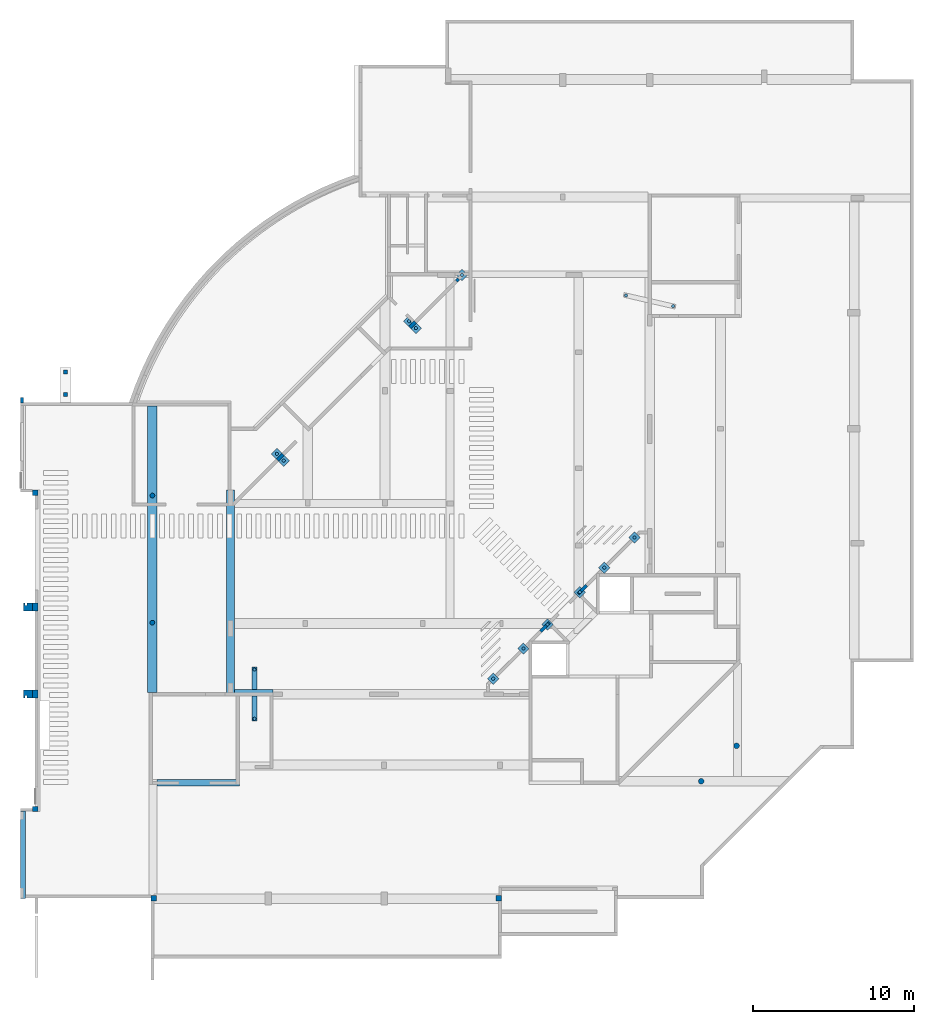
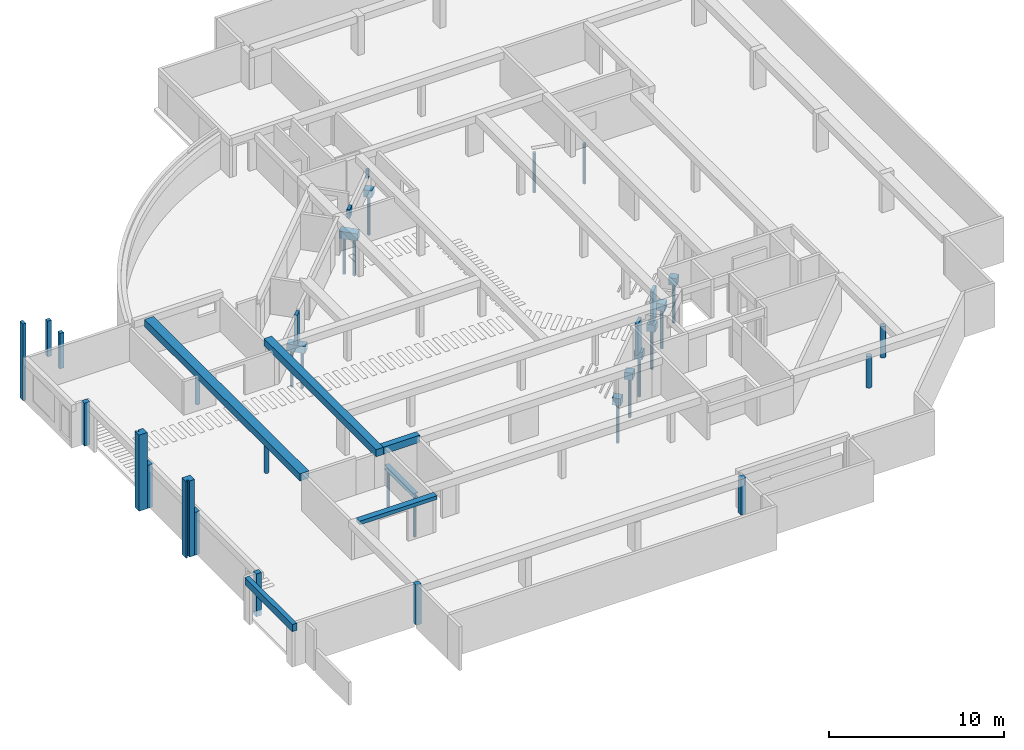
# One storey, part 1 of 12: 20 columns, 15 piles, 9 footings, 6 beams.
"""IFC4X3_ADD2 building model written with IfcOpenShell, lengths in millimetres."""

import ifcopenshell
import ifcopenshell.guid

model = None  # the IFC model being written
_history = None  # IfcOwnerHistory: only IFC2X3 demands one
_inside = {}  # id of a spatial element -> (the spatial element, [elements in it])
_under = {}  # id of a project, library or spatial element -> (it, [spatial elements below it])
_declared = {}  # id of a project -> (the project, [libraries it declares])
_typed = {}  # id of a type object -> (the type object, [elements of that type])
_made_of = {}  # id of a material, layer set ... -> (it, [elements and type objects made of it])


def new_model(schema):
    """Start an empty IFC model of exactly this schema.

    Asked for "IFC4X3", IfcOpenShell would pick the latest addendum, in which some entities
    have other attributes; the version numbers below select the first issue.
    IFC2X3 requires an IfcOwnerHistory on every rooted entity: one is made here for all.
    """
    global model, _history
    if schema == "IFC4X3":
        model = ifcopenshell.file(schema_version=(4, 3, 0, 0))
    else:
        model = ifcopenshell.file(schema=schema)
    _inside.clear()
    _under.clear()
    _declared.clear()
    _typed.clear()
    _made_of.clear()
    _history = None
    if model.schema == "IFC2X3":
        org = make("IfcOrganization", Name="unknown")
        user = make(
            "IfcPersonAndOrganization",
            ThePerson=make("IfcPerson", FamilyName="unknown"),
            TheOrganization=org,
        )
        app = make(
            "IfcApplication",
            ApplicationDeveloper=org,
            Version="unknown",
            ApplicationFullName="unknown",
            ApplicationIdentifier="unknown",
        )
        _history = make(
            "IfcOwnerHistory",
            OwningUser=user,
            OwningApplication=app,
            ChangeAction="ADDED",
            CreationDate=0,
        )
    return model


def make(cls, **values):
    """One entity of the class cls with the attributes given. An attribute that is None is left unset."""
    return model.create_entity(
        cls, **{name: value for name, value in values.items() if value is not None}
    )


def rooted(cls, **values):
    """An entity with a GlobalId (a new one), such as an element, a storey or a relation."""
    return make(cls, GlobalId=ifcopenshell.guid.new(), OwnerHistory=_history, **values)


def si_unit(unit_type, name, prefix=None):
    """IfcSIUnit, for example si_unit("LENGTHUNIT", "METRE", prefix="MILLI")."""
    return make("IfcSIUnit", UnitType=unit_type, Prefix=prefix, Name=name)


def assignment(units):
    """IfcUnitAssignment: the units of a project."""
    return None if units is None else make("IfcUnitAssignment", Units=units)


def point(xyz):
    """IfcCartesianPoint."""
    return None if xyz is None else make("IfcCartesianPoint", Coordinates=xyz)


def direction(xyz):
    """IfcDirection."""
    return None if xyz is None else make("IfcDirection", DirectionRatios=xyz)


def frame(location, z_axis=None, x_axis=None):
    """IfcAxis2Placement3D, a coordinate frame: its origin and axes. An axis left out is left unset."""
    return make(
        "IfcAxis2Placement3D",
        Location=point(location),
        Axis=direction(z_axis),
        RefDirection=direction(x_axis),
    )


def frame_2d(location, x_axis=None):
    """IfcAxis2Placement2D, a coordinate frame in the plane: its origin and x axis."""
    return make(
        "IfcAxis2Placement2D", Location=point(location), RefDirection=direction(x_axis)
    )


def origin_with_axes():
    """The frame at (0, 0, 0) with the z axis (0, 0, 1) and the x axis (1, 0, 0) written out."""
    return frame((0.0, 0.0, 0.0), z_axis=(0.0, 0.0, 1.0), x_axis=(1.0, 0.0, 0.0))


def origin_2d_with_axis():
    """The frame at (0, 0) in the plane with the x axis (1, 0) written out."""
    return frame_2d((0.0, 0.0), x_axis=(1.0, 0.0))


def place(relative_to, where):
    """IfcLocalPlacement: puts the frame where relative to a parent placement (None: the world)."""
    return make(
        "IfcLocalPlacement", PlacementRelTo=relative_to, RelativePlacement=where
    )


def context(
    kind, dimensions, precision=None, world=None, true_north=None, identifier=None
):
    """IfcGeometricRepresentationContext, for example the 3D "Model" context."""
    return make(
        "IfcGeometricRepresentationContext",
        ContextIdentifier=identifier,
        ContextType=kind,
        CoordinateSpaceDimension=dimensions,
        Precision=precision,
        WorldCoordinateSystem=world,
        TrueNorth=true_north,
    )


def subcontext(parent, identifier, kind, view, scale=None):
    """IfcGeometricRepresentationSubContext, for example "Body" below "Model"."""
    return make(
        "IfcGeometricRepresentationSubContext",
        ContextIdentifier=identifier,
        ContextType=kind,
        ParentContext=parent,
        TargetScale=scale,
        TargetView=view,
    )


def project(units=None, contexts=None):
    """IfcProject with its units and contexts."""
    return rooted(
        "IfcProject",
        Name="project",
        RepresentationContexts=contexts,
        UnitsInContext=assignment(units),
    )


def spatial(cls, under=None, at=None, **own):
    """A site, building, storey or space (cls), placed at a placement, below another one or the project."""
    s = rooted(cls, ObjectPlacement=at, **own)
    if under is not None:
        _under.setdefault(under.id(), (under, []))[1].append(s)
    return s


def polyline(points):
    """IfcPolyline through the points."""
    return make("IfcPolyline", Points=[point(p) for p in points])


def profile(cls, at=None, kind="AREA", **sizes):
    """A parametric profile (cls). Its sizes go by their IFC names, for example OverallWidth=200.0."""
    return make(cls, ProfileType=kind, Position=at, **sizes)


def rectangle(**sizes):
    """IfcRectangleProfileDef."""
    return profile("IfcRectangleProfileDef", **sizes)


def circle(**sizes):
    """IfcCircleProfileDef."""
    return profile("IfcCircleProfileDef", **sizes)


def outline(outer, holes=None, kind="AREA"):
    """IfcArbitraryClosedProfileDef: a profile drawn as a closed curve; with holes, ...WithVoids."""
    if holes is None:
        return make("IfcArbitraryClosedProfileDef", ProfileType=kind, OuterCurve=outer)
    return make(
        "IfcArbitraryProfileDefWithVoids",
        ProfileType=kind,
        OuterCurve=outer,
        InnerCurves=holes,
    )


def extrude(swept, where, along, depth):
    """IfcExtrudedAreaSolid: the profile swept, set in the frame where, extruded along a direction by depth."""
    return make(
        "IfcExtrudedAreaSolid",
        SweptArea=swept,
        Position=where,
        ExtrudedDirection=direction(along),
        Depth=depth,
    )


def shape(context_of_items, identifier, shape_type, items):
    """IfcShapeRepresentation: the items that make up one representation, for example the "Body"."""
    return make(
        "IfcShapeRepresentation",
        ContextOfItems=context_of_items,
        RepresentationIdentifier=identifier,
        RepresentationType=shape_type,
        Items=items,
    )


def source(mapping_origin, context_of_items, identifier, shape_type, items):
    """IfcRepresentationMap: a shape defined once, which mapped items show again and again."""
    return make(
        "IfcRepresentationMap",
        MappingOrigin=mapping_origin,
        MappedRepresentation=shape(context_of_items, identifier, shape_type, items),
    )


def transform(
    local_origin,
    x_axis=None,
    y_axis=None,
    z_axis=None,
    scale=None,
    scale2=None,
    scale3=None,
    uniform=True,
):
    """IfcCartesianTransformationOperator3D, or its non-uniform kind. x_axis, y_axis, z_axis: its Axis1, 2, 3."""
    if uniform:
        return make(
            "IfcCartesianTransformationOperator3D",
            Axis1=direction(x_axis),
            Axis2=direction(y_axis),
            LocalOrigin=point(local_origin),
            Scale=scale,
            Axis3=direction(z_axis),
        )
    return make(
        "IfcCartesianTransformationOperator3DnonUniform",
        Axis1=direction(x_axis),
        Axis2=direction(y_axis),
        LocalOrigin=point(local_origin),
        Scale=scale,
        Axis3=direction(z_axis),
        Scale2=scale2,
        Scale3=scale3,
    )


def mapped(mapping_source, mapping_target):
    """IfcMappedItem: shows the shape of a source again, moved by a transform."""
    return make(
        "IfcMappedItem", MappingSource=mapping_source, MappingTarget=mapping_target
    )


def material(Name=None, Category=None):
    """IfcMaterial."""
    return make("IfcMaterial", Name=Name, Category=Category)


def made_of(thing, what):
    """Note that an element or type object is made of a material, layer set ...; save() writes the relation."""
    if what is not None:
        _made_of.setdefault(what.id(), (what, []))[1].append(thing)
    return thing


def type_object(cls, material=None, **own):
    """A type object (cls), such as IfcWallType, which elements share."""
    return made_of(rooted(cls, **own), material)


def type_shapes(of_type, sources):
    """Give a type object the sources (RepresentationMaps) that its elements show as mapped items."""
    of_type.RepresentationMaps = sources


def element(
    cls,
    number,
    at=None,
    inside=None,
    cuts=None,
    type_object=None,
    material=None,
    context=None,
    identifier="Body",
    shape_type=None,
    held_by="IfcProductDefinitionShape",
    body=None,
    shapes=None,
    **own,
):
    """One element of the class cls, such as IfcWall. Its Tag is "e" and its number.

    at: its placement. inside: the storey or other place that contains it. cuts: it is an
    opening in that element (IfcRelVoidsElement). A single representation is given by context,
    identifier, shape_type and body (its items); several are given by shapes. held_by: the class
    of the entity that holds the representations. save() writes the other relations.
    """
    e = rooted(cls, Tag="e%d" % number, ObjectPlacement=at, **own)
    if body is not None:
        shapes = [shape(context, identifier, shape_type, body)]
    if shapes is not None:
        e.Representation = make(held_by, Representations=shapes)
    if inside is not None:
        _inside.setdefault(inside.id(), (inside, []))[1].append(e)
    if cuts is not None:
        rooted(
            "IfcRelVoidsElement", RelatingBuildingElement=cuts, RelatedOpeningElement=e
        )
    if type_object is not None:
        _typed.setdefault(type_object.id(), (type_object, []))[1].append(e)
    return made_of(e, material)


def aggregate(whole, parts):
    """IfcRelAggregates: a whole, such as a stair, and the parts it consists of."""
    return rooted("IfcRelAggregates", RelatingObject=whole, RelatedObjects=parts)


def save(model, path):
    """Write the relations noted so far, then the file.

    IfcRelAggregates (storeys below a building ...), IfcRelContainedInSpatialStructure (elements
    in a storey), IfcRelDefinesByType, IfcRelAssociatesMaterial and IfcRelDeclares: one each for
    every whole, place, type object, material and project.
    """
    for whole, parts in _under.values():
        aggregate(whole, parts)
    for where, things in _inside.values():
        rooted(
            "IfcRelContainedInSpatialStructure",
            RelatedElements=things,
            RelatingStructure=where,
        )
    for kind, things in _typed.values():
        rooted("IfcRelDefinesByType", RelatedObjects=things, RelatingType=kind)
    for what, things in _made_of.values():
        rooted("IfcRelAssociatesMaterial", RelatedObjects=things, RelatingMaterial=what)
    for by, libraries in _declared.values():
        rooted("IfcRelDeclares", RelatingContext=by, RelatedDefinitions=libraries)
    model.write(path)


model = new_model("IFC4X3_ADD2")

# Units and contexts
model_context = context("Model", 3, precision=1e-05, world=origin_with_axes(), true_north=direction((0.0, 1.0)))
body_context = subcontext(model_context, "Body", "Model", "MODEL_VIEW")
ifc_project = project(units=[si_unit("LENGTHUNIT", "METRE", prefix="MILLI"), si_unit("AREAUNIT", "SQUARE_METRE"), si_unit("VOLUMEUNIT", "CUBIC_METRE"), si_unit("PLANEANGLEUNIT", "RADIAN"), si_unit("TIMEUNIT", "SECOND"), si_unit("MASSUNIT", "GRAM")], contexts=[model_context])

# Site, building, storey
site_placement = place(None, origin_with_axes())
site = spatial("IfcSite", under=ifc_project, at=site_placement, Name="Site", CompositionType="ELEMENT")
building_placement = place(site_placement, origin_with_axes())
building = spatial("IfcBuilding", under=site, at=building_placement, Name="IFC Building Story")
storey_placement = place(building_placement, frame((0.0, 0.0, -5940.0), z_axis=(0.0, 0.0, 1.0), x_axis=(1.0, 0.0, 0.0)))
storey = spatial("IfcBuildingStorey", under=building, at=storey_placement, Name="K20", Elevation=-5940.0)

# Footings
ifc_material_1 = material(Name="Concrete, Cast-in-Place gray")
type_product_1 = type_object("IfcTypeProduct", Name="M_Pile Cap-1 Pile_500 x 500 x 500mm")
shared_shape_1 = source(origin_with_axes(), body_context, "Body", "SweptSolid", [
    extrude(rectangle(XDim=500.0, YDim=500.0, at=frame_2d((0.0, 0.0), x_axis=(0.0, 1.0))), frame((0.0, 0.0, -500.0), z_axis=(0.0, 0.0, 1.0), x_axis=(1.0, 0.0, 0.0)), (0.0, 0.0, 1.0), 500.0),
])
type_shapes(type_product_1, [shared_shape_1])
for number, where, z_axis, x_axis, name in (
    (1, (-16940.09696384, 18949.3000620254, 0.0), (0.0, 0.0, 1.0), (0.7071067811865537, 0.7071067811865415, 0.0), "M_Pile Cap-1 Pile:500 x 500 x 500mm"),
    (2, (-15420.6543263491, 20468.7426995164, 0.0), (0.0, 0.0, 1.0), (0.7071067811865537, 0.7071067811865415, 0.0), "M_Pile Cap-1 Pile:500 x 500 x 500mm"),
    (3, (-18944.7454076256, 16944.6516182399, 0.0), (0.0, 0.0, 1.0), (0.7071067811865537, 0.7071067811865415, 0.0), "M_Pile Cap-1 Pile:500 x 500 x 500mm"),
    (4, (-20447.5588851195, 15443.5937444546, 0.0), (0.0, 0.0, 1.0), (0.7071067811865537, 0.7071067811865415, 0.0), "M_Pile Cap-1 Pile:500 x 500 x 500mm"),
    (5, (-22320.5140534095, 13568.8829724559, 0.0), (0.0, 0.0, 1.0), (0.7071067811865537, 0.7071067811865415, 0.0), "M_Pile Cap-1 Pile:500 x 500 x 500mm"),
    (6, (-13546.8213562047, 22342.5756696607, 0.0), (0.0, 0.0, 1.0), (0.7071067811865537, 0.7071067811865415, 0.0), "M_Pile Cap-1 Pile:500 x 500 x 500mm"),
    (7, (-24261.0232022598, 38655.7160983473, 0.0), (0.0, 0.0, 1.0), (0.7071067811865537, 0.7071067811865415, 0.0), "M_Pile Cap-1 Pile:500 x 500 x 500mm"),
):
    element("IfcFooting", number, at=place(storey_placement, frame(where, z_axis=z_axis, x_axis=x_axis)), inside=storey, type_object=type_product_1, material=ifc_material_1, Name=name, ObjectType="M_Pile Cap-1 Pile:500 x 500 x 500mm", PredefinedType="PILE_CAP", context=body_context, shape_type="MappedRepresentation", body=[
        mapped(shared_shape_1, transform((0.0, 0.0, 0.0))),
    ])

# Piles
ifc_material_2 = material(Name="Concrete, C30/37")
shared_shape_2 = source(origin_with_axes(), body_context, "Body", "SweptSolid", [
    extrude(circle(Radius=100.0, at=frame_2d((0.0, 0.0), x_axis=(-0.7071067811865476, -0.7071067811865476))), frame((-16940.09696384, 18949.3000620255, -9190.0), z_axis=(0.0, 0.0, 1.0), x_axis=(1.0, 0.0, 0.0)), (0.0, 0.0, 1.0), 2750.0),
])
pile_1_placement = place(storey_placement, frame((0.0, 0.0, 5940.0), z_axis=(0.0, 0.0, 1.0), x_axis=(1.0, 0.0, 0.0)))
element("IfcPile", 8, at=pile_1_placement, inside=storey, material=ifc_material_2, Name="M_Pile-Concrete Pipe:200 mm Diameter", ObjectType="M_Pile-Concrete Pipe:200 mm Diameter", PredefinedType="USERDEFINED", context=body_context, shape_type="MappedRepresentation", body=[
    mapped(shared_shape_2, transform((0.0, 0.0, 0.0))),
])
shared_shape_3 = source(origin_with_axes(), body_context, "Body", "SweptSolid", [
    extrude(circle(Radius=100.000000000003, at=frame_2d((0.0, 0.0), x_axis=(-0.7071067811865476, -0.7071067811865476))), frame((-15420.6543263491, 20468.7426995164, -9190.0), z_axis=(0.0, 0.0, 1.0), x_axis=(1.0, 0.0, 0.0)), (0.0, 0.0, 1.0), 2750.0),
])
pile_2_placement = place(storey_placement, frame((0.0, 0.0, 5940.0), z_axis=(0.0, 0.0, 1.0), x_axis=(1.0, 0.0, 0.0)))
element("IfcPile", 9, at=pile_2_placement, inside=storey, material=ifc_material_2, Name="M_Pile-Concrete Pipe:200 mm Diameter", ObjectType="M_Pile-Concrete Pipe:200 mm Diameter", PredefinedType="USERDEFINED", context=body_context, shape_type="MappedRepresentation", body=[
    mapped(shared_shape_3, transform((0.0, 0.0, 0.0))),
])
shared_shape_4 = source(origin_with_axes(), body_context, "Body", "SweptSolid", [
    extrude(circle(Radius=100.0, at=frame_2d((0.0, 0.0), x_axis=(-0.7071067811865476, -0.7071067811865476))), frame((-18944.7454076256, 16944.6516182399, -9190.0), z_axis=(0.0, 0.0, 1.0), x_axis=(1.0, 0.0, 0.0)), (0.0, 0.0, 1.0), 2750.0),
])
pile_3_placement = place(storey_placement, frame((0.0, 0.0, 5940.0), z_axis=(0.0, 0.0, 1.0), x_axis=(1.0, 0.0, 0.0)))
element("IfcPile", 10, at=pile_3_placement, inside=storey, material=ifc_material_2, Name="M_Pile-Concrete Pipe:200 mm Diameter", ObjectType="M_Pile-Concrete Pipe:200 mm Diameter", PredefinedType="USERDEFINED", context=body_context, shape_type="MappedRepresentation", body=[
    mapped(shared_shape_4, transform((0.0, 0.0, 0.0))),
])
shared_shape_5 = source(origin_with_axes(), body_context, "Body", "SweptSolid", [
    extrude(circle(Radius=99.999999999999, at=frame_2d((0.0, 0.0), x_axis=(-0.7071067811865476, -0.7071067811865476))), frame((-20447.5588851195, 15443.5937444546, -9190.0), z_axis=(0.0, 0.0, 1.0), x_axis=(1.0, 0.0, 0.0)), (0.0, 0.0, 1.0), 2750.0),
])
pile_4_placement = place(storey_placement, frame((0.0, 0.0, 5940.0), z_axis=(0.0, 0.0, 1.0), x_axis=(1.0, 0.0, 0.0)))
element("IfcPile", 11, at=pile_4_placement, inside=storey, material=ifc_material_2, Name="M_Pile-Concrete Pipe:200 mm Diameter", ObjectType="M_Pile-Concrete Pipe:200 mm Diameter", PredefinedType="USERDEFINED", context=body_context, shape_type="MappedRepresentation", body=[
    mapped(shared_shape_5, transform((0.0, 0.0, 0.0))),
])
shared_shape_6 = source(origin_with_axes(), body_context, "Body", "SweptSolid", [
    extrude(circle(Radius=99.999999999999, at=frame_2d((0.0, 0.0), x_axis=(-0.7071067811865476, -0.7071067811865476))), frame((-22320.5140534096, 13568.8829724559, -9190.0), z_axis=(0.0, 0.0, 1.0), x_axis=(1.0, 0.0, 0.0)), (0.0, 0.0, 1.0), 2750.0),
])
pile_5_placement = place(storey_placement, frame((0.0, 0.0, 5940.0), z_axis=(0.0, 0.0, 1.0), x_axis=(1.0, 0.0, 0.0)))
element("IfcPile", 12, at=pile_5_placement, inside=storey, material=ifc_material_2, Name="M_Pile-Concrete Pipe:200 mm Diameter", ObjectType="M_Pile-Concrete Pipe:200 mm Diameter", PredefinedType="USERDEFINED", context=body_context, shape_type="MappedRepresentation", body=[
    mapped(shared_shape_6, transform((0.0, 0.0, 0.0))),
])
shared_shape_7 = source(origin_with_axes(), body_context, "Body", "SweptSolid", [
    extrude(circle(Radius=100.000000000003, at=frame_2d((0.0, 0.0), x_axis=(-0.7071067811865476, -0.7071067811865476))), frame((-13546.8213562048, 22342.5756696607, -9190.0), z_axis=(0.0, 0.0, 1.0), x_axis=(1.0, 0.0, 0.0)), (0.0, 0.0, 1.0), 2750.0),
])
pile_6_placement = place(storey_placement, frame((0.0, 0.0, 5940.0), z_axis=(0.0, 0.0, 1.0), x_axis=(1.0, 0.0, 0.0)))
element("IfcPile", 13, at=pile_6_placement, inside=storey, material=ifc_material_2, Name="M_Pile-Concrete Pipe:200 mm Diameter", ObjectType="M_Pile-Concrete Pipe:200 mm Diameter", PredefinedType="USERDEFINED", context=body_context, shape_type="MappedRepresentation", body=[
    mapped(shared_shape_7, transform((0.0, 0.0, 0.0))),
])
shared_shape_8 = source(origin_with_axes(), body_context, "Body", "SweptSolid", [
    extrude(circle(Radius=100.0, at=frame_2d((0.0, 0.0), x_axis=(-0.7071067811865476, -0.7071067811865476))), frame((-24261.0232022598, 38655.7160983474, -9190.0), z_axis=(0.0, 0.0, 1.0), x_axis=(1.0, 0.0, 0.0)), (0.0, 0.0, 1.0), 2750.0),
])
pile_7_placement = place(storey_placement, frame((0.0, 0.0, 5940.0), z_axis=(0.0, 0.0, 1.0), x_axis=(1.0, 0.0, 0.0)))
element("IfcPile", 14, at=pile_7_placement, inside=storey, material=ifc_material_2, Name="M_Pile-Concrete Pipe:200 mm Diameter", ObjectType="M_Pile-Concrete Pipe:200 mm Diameter", PredefinedType="USERDEFINED", context=body_context, shape_type="MappedRepresentation", body=[
    mapped(shared_shape_8, transform((0.0, 0.0, 0.0))),
])

# Footings
type_product_2 = type_object("IfcTypeProduct", Name="M_Pile Cap-2 Pile_500 x 1100 x 500")
shared_shape_9 = source(origin_with_axes(), body_context, "Body", "SweptSolid", [
    extrude(rectangle(XDim=1100.0, YDim=500.0, at=origin_2d_with_axis()), frame((0.0, 0.0, -500.0), z_axis=(0.0, 0.0, 1.0), x_axis=(1.0, 0.0, 0.0)), (0.0, 0.0, 1.0), 500.0),
])
type_shapes(type_product_2, [shared_shape_9])
for number, where, z_axis, x_axis, name in (
    (15, (-27339.2743410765, 35567.9262062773, 0.0), (0.0, 0.0, 1.0), (-0.7071067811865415, 0.7071067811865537, 0.0), "M_Pile Cap-2 Pile:500 x 1100 x 500"),
    (16, (-35550.6571620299, 27332.0113002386, 0.0), (0.0, 0.0, 1.0), (-0.7071067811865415, 0.7071067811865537, 0.0), "M_Pile Cap-2 Pile:500 x 1100 x 500"),
):
    element("IfcFooting", number, at=place(storey_placement, frame(where, z_axis=z_axis, x_axis=x_axis)), inside=storey, type_object=type_product_2, material=ifc_material_1, Name=name, ObjectType="M_Pile Cap-2 Pile:500 x 1100 x 500", PredefinedType="PILE_CAP", context=body_context, shape_type="MappedRepresentation", body=[
        mapped(shared_shape_9, transform((0.0, 0.0, 0.0))),
    ])

# Piles
shared_shape_10 = source(origin_with_axes(), body_context, "Body", "SweptSolid", [
    extrude(circle(Radius=100.0, at=frame_2d((0.0, 0.0), x_axis=(0.707106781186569, -0.707106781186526))), frame((-27551.4063754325, 35780.0582406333, -9040.0), z_axis=(0.0, 0.0, 1.0), x_axis=(1.0, 0.0, 0.0)), (0.0, 0.0, 1.0), 2600.0),
])
pile_8_placement = place(storey_placement, frame((0.0, 0.0, 5940.0), z_axis=(0.0, 0.0, 1.0), x_axis=(1.0, 0.0, 0.0)))
element("IfcPile", 17, at=pile_8_placement, inside=storey, material=ifc_material_2, Name="M_Pile-Concrete Pipe:200 mm Diameter", ObjectType="M_Pile-Concrete Pipe:200 mm Diameter", PredefinedType="USERDEFINED", context=body_context, shape_type="MappedRepresentation", body=[
    mapped(shared_shape_10, transform((0.0, 0.0, 0.0))),
])
shared_shape_11 = source(origin_with_axes(), body_context, "Body", "SweptSolid", [
    extrude(circle(Radius=100.0, at=frame_2d((0.0, 0.0), x_axis=(0.707106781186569, -0.707106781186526))), frame((-27127.1423067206, 35355.7941719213, -9040.0), z_axis=(0.0, 0.0, 1.0), x_axis=(1.0, 0.0, 0.0)), (0.0, 0.0, 1.0), 2600.0),
])
pile_9_placement = place(storey_placement, frame((0.0, 0.0, 5940.0), z_axis=(0.0, 0.0, 1.0), x_axis=(1.0, 0.0, 0.0)))
element("IfcPile", 18, at=pile_9_placement, inside=storey, material=ifc_material_2, Name="M_Pile-Concrete Pipe:200 mm Diameter", ObjectType="M_Pile-Concrete Pipe:200 mm Diameter", PredefinedType="USERDEFINED", context=body_context, shape_type="MappedRepresentation", body=[
    mapped(shared_shape_11, transform((0.0, 0.0, 0.0))),
])
shared_shape_12 = source(origin_with_axes(), body_context, "Body", "SweptSolid", [
    extrude(circle(Radius=100.0, at=frame_2d((0.0, 0.0), x_axis=(0.707106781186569, -0.707106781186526))), frame((-35762.7891963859, 27544.1433345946, -9040.0), z_axis=(0.0, 0.0, 1.0), x_axis=(1.0, 0.0, 0.0)), (0.0, 0.0, 1.0), 2600.0),
])
pile_10_placement = place(storey_placement, frame((0.0, 0.0, 5940.0), z_axis=(0.0, 0.0, 1.0), x_axis=(1.0, 0.0, 0.0)))
element("IfcPile", 19, at=pile_10_placement, inside=storey, material=ifc_material_2, Name="M_Pile-Concrete Pipe:200 mm Diameter", ObjectType="M_Pile-Concrete Pipe:200 mm Diameter", PredefinedType="USERDEFINED", context=body_context, shape_type="MappedRepresentation", body=[
    mapped(shared_shape_12, transform((0.0, 0.0, 0.0))),
])
shared_shape_13 = source(origin_with_axes(), body_context, "Body", "SweptSolid", [
    extrude(circle(Radius=100.0, at=frame_2d((0.0, 0.0), x_axis=(0.707106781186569, -0.707106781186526))), frame((-35338.5251276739, 27119.8792658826, -9040.0), z_axis=(0.0, 0.0, 1.0), x_axis=(1.0, 0.0, 0.0)), (0.0, 0.0, 1.0), 2600.0),
])
pile_11_placement = place(storey_placement, frame((0.0, 0.0, 5940.0), z_axis=(0.0, 0.0, 1.0), x_axis=(1.0, 0.0, 0.0)))
element("IfcPile", 20, at=pile_11_placement, inside=storey, material=ifc_material_2, Name="M_Pile-Concrete Pipe:200 mm Diameter", ObjectType="M_Pile-Concrete Pipe:200 mm Diameter", PredefinedType="USERDEFINED", context=body_context, shape_type="MappedRepresentation", body=[
    mapped(shared_shape_13, transform((0.0, 0.0, 0.0))),
])
shared_shape_14 = source(origin_with_axes(), body_context, "Body", "SweptSolid", [
    extrude(circle(Radius=100.0, at=frame_2d((0.0, 0.0), x_axis=(-1.0, 0.0))), frame((0.0, 0.0, -2650.0), z_axis=(0.0, 0.0, 1.0), x_axis=(1.0, 0.0, 0.0)), (0.0, 0.0, 1.0), 2800.0),
])
for number, where, z_axis, x_axis, name in (
    (21, (-37155.9311801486, 11081.3984259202, -450.0), (0.0, 0.0, 1.0), (1.0, 0.0, 0.0), "M_Pile-Concrete Pipe:200 mm Diameter"),
    (22, (-37155.9311801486, 14132.4765192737, -450.0), (0.0, 0.0, 1.0), (1.0, 0.0, 0.0), "M_Pile-Concrete Pipe:200 mm Diameter"),
    (23, (-11141.0733573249, 36722.0180304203, -450.0), (0.0, 0.0, 1.0), (0.225286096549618, 0.9742926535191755, 0.0), "M_Pile-Concrete Pipe:200 mm Diameter"),
    (24, (-14065.130233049, 37389.4927690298, -450.0), (0.0, 0.0, 1.0), (0.225286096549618, 0.9742926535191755, 0.0), "M_Pile-Concrete Pipe:200 mm Diameter"),
):
    element("IfcPile", number, at=place(storey_placement, frame(where, z_axis=z_axis, x_axis=x_axis)), inside=storey, material=ifc_material_1, Name=name, ObjectType="M_Pile-Concrete Pipe:200 mm Diameter", PredefinedType="USERDEFINED", context=body_context, shape_type="MappedRepresentation", body=[
        mapped(shared_shape_14, transform((0.0, 0.0, 0.0))),
    ])

# Columns
ifc_material_3 = material(Name="BB_Beton_Bestaand")
column_type_1 = type_object("IfcColumnType", Name="BB_XX_Kolom_ rechthoekig_ center-center_GTL_340 mm x 340 mm", PredefinedType="NOTDEFINED")
shared_shape_15 = source(origin_with_axes(), body_context, "Body", "SweptSolid", [
    extrude(rectangle(XDim=340.0, YDim=340.0, at=origin_2d_with_axis()), frame((-50775.0, 5475.0, -6340.0), z_axis=(0.0, 0.0, 1.0), x_axis=(1.0, 0.0, 0.0)), (0.0, 0.0, 1.0), 3000.0),
])
type_shapes(column_type_1, [shared_shape_15])
column_1_placement = place(storey_placement, frame((0.0, 0.0, 5940.0), z_axis=(0.0, 0.0, 1.0), x_axis=(1.0, 0.0, 0.0)))
element("IfcColumn", 25, at=column_1_placement, inside=storey, type_object=column_type_1, material=ifc_material_3, Name="BB_XX_Kolom, rechthoekig, center-center_GTL:340 mm x 340 mm", ObjectType="340 mm x 340 mm", PredefinedType="COLUMN", context=body_context, shape_type="MappedRepresentation", body=[
    mapped(shared_shape_15, transform((0.0, 0.0, 0.0))),
])
column_type_2 = type_object("IfcColumnType", Name="BB_XX_Kolom_ rechthoekig_ center-center_GTL_340 mm x 340 mm1", PredefinedType="NOTDEFINED")
shared_shape_16 = source(origin_with_axes(), body_context, "Body", "SweptSolid", [
    extrude(rectangle(XDim=340.0, YDim=340.000000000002, at=origin_2d_with_axis()), frame((-43425.0, -75.0, -6140.0), z_axis=(0.0, 0.0, 1.0), x_axis=(1.0, 0.0, 0.0)), (0.0, 0.0, 1.0), 2800.0),
])
type_shapes(column_type_2, [shared_shape_16])
column_2_placement = place(storey_placement, frame((0.0, 0.0, 5940.0), z_axis=(0.0, 0.0, 1.0), x_axis=(1.0, 0.0, 0.0)))
element("IfcColumn", 26, at=column_2_placement, inside=storey, type_object=column_type_2, material=ifc_material_3, Name="BB_XX_Kolom, rechthoekig, center-center_GTL:340 mm x 340 mm", ObjectType="340 mm x 340 mm", PredefinedType="COLUMN", context=body_context, shape_type="MappedRepresentation", body=[
    mapped(shared_shape_16, transform((0.0, 0.0, 0.0))),
])
ifc_material_4 = material(Name="<Unnamed>")
column_type_3 = type_object("IfcColumnType", Name="BB_XX_Kolom_ rond_GMO_300 x 2100 mm", PredefinedType="NOTDEFINED")
shared_shape_17 = source(origin_with_axes(), body_context, "Body", "SweptSolid", [
    extrude(circle(Radius=150.0, at=frame_2d((0.0, 0.0), x_axis=(-1.0, 0.0))), origin_with_axes(), (0.0, 0.0, 1.0), 2100.0),
])
type_shapes(column_type_3, [shared_shape_17])
for number, where, z_axis, x_axis in (
    (27, (-43500.0, 17049.8382973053, 0.0), (0.0, 0.0, 1.0), (1.0, 0.0, 0.0)),
    (28, (-43500.0, 24949.8382973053, 0.0), (0.0, 0.0, 1.0), (1.0, 0.0, 0.0)),
):
    element("IfcColumn", number, at=place(storey_placement, frame(where, z_axis=z_axis, x_axis=x_axis)), inside=storey, type_object=column_type_3, material=ifc_material_4, Name="BB_XX_Kolom, rond_GMO:300 x 2100 mm", ObjectType="300 x 2100 mm", PredefinedType="COLUMN", context=body_context, shape_type="MappedRepresentation", body=[
        mapped(shared_shape_17, transform((0.0, 0.0, 0.0))),
    ])
column_type_4 = type_object("IfcColumnType", Name="BB_XX_Kolom_ rechthoekig_ center-center_GTL_340 mm x 340 mm3", PredefinedType="NOTDEFINED")
shared_shape_18 = source(origin_with_axes(), body_context, "Body", "SweptSolid", [
    extrude(rectangle(XDim=340.0, YDim=340.000000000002, at=origin_2d_with_axis()), frame((0.0, 0.0, -5940.0), z_axis=(0.0, 0.0, 1.0), x_axis=(1.0, 0.0, 0.0)), (0.0, 0.0, 1.0), 2500.0),
])
type_shapes(column_type_4, [shared_shape_18])
column_3_placement = place(storey_placement, frame((-21975.0, -75.0, 5940.0), z_axis=(0.0, 0.0, 1.0), x_axis=(1.0, 0.0, 0.0)))
element("IfcColumn", 29, at=column_3_placement, inside=storey, type_object=column_type_4, material=ifc_material_3, Name="BB_XX_Kolom, rechthoekig, center-center_GTL:340 mm x 340 mm", ObjectType="340 mm x 340 mm", PredefinedType="COLUMN", context=body_context, shape_type="MappedRepresentation", body=[
    mapped(shared_shape_18, transform((0.0, 0.0, 0.0))),
])
column_type_5 = type_object("IfcColumnType", Name="BB_XX_Kolom_ rond_GMO_350 x 2200 mm", PredefinedType="NOTDEFINED")
shared_shape_19 = source(origin_with_axes(), body_context, "Body", "SweptSolid", [
    extrude(circle(Radius=175.0, at=frame_2d((0.0, 0.0), x_axis=(-1.0, 0.0))), origin_with_axes(), (0.0, 0.0, 1.0), 2200.0),
])
type_shapes(column_type_5, [shared_shape_19])
for number, where, z_axis, x_axis in (
    (30, (-9400.0, 7200.0, 0.0), (0.0, 0.0, 1.0), (1.0, 0.0, 0.0)),
    (31, (-7200.0, 9400.0, 0.0), (0.0, 0.0, 1.0), (1.0, 0.0, 0.0)),
):
    element("IfcColumn", number, at=place(storey_placement, frame(where, z_axis=z_axis, x_axis=x_axis)), inside=storey, type_object=column_type_5, material=ifc_material_4, Name="BB_XX_Kolom, rond_GMO:350 x 2200 mm", ObjectType="350 x 2200 mm", PredefinedType="COLUMN", context=body_context, shape_type="MappedRepresentation", body=[
        mapped(shared_shape_19, transform((0.0, 0.0, 0.0))),
    ])
column_type_6 = type_object("IfcColumnType", Name="BB_XX_Kolom_ rechthoekig_ center-center_GTL_490 mm x 340 mm", PredefinedType="NOTDEFINED")
shared_shape_20 = source(origin_with_axes(), body_context, "Body", "SweptSolid", [
    extrude(rectangle(XDim=490.0, YDim=340.0, at=frame_2d((0.0, 0.0), x_axis=(0.0, 1.0))), frame((-50775.00000000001, 12630.0, -6340.0), z_axis=(0.0, 0.0, 1.0), x_axis=(1.0, 0.0, 0.0)), (0.0, 0.0, 1.0), 3000.0),
])
type_shapes(column_type_6, [shared_shape_20])
column_4_placement = place(storey_placement, frame((0.0, 0.0, 5940.0), z_axis=(0.0, 0.0, 1.0), x_axis=(1.0, 0.0, 0.0)))
element("IfcColumn", 32, at=column_4_placement, inside=storey, type_object=column_type_6, material=ifc_material_3, Name="BB_XX_Kolom, rechthoekig, center-center_GTL:490 mm x 340 mm", ObjectType="490 mm x 340 mm", PredefinedType="COLUMN", context=body_context, shape_type="MappedRepresentation", body=[
    mapped(shared_shape_20, transform((0.0, 0.0, 0.0))),
])
column_type_7 = type_object("IfcColumnType", Name="BB_XX_Kolom_ rechthoekig_ center-center_GTL_490 mm x 340 mm1", PredefinedType="NOTDEFINED")
shared_shape_21 = source(origin_with_axes(), body_context, "Body", "SweptSolid", [
    extrude(rectangle(XDim=489.9999999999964, YDim=340.0, at=frame_2d((0.0, 0.0), x_axis=(0.0, 1.0))), frame((-50775.00000000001, 18030.0, -6340.0), z_axis=(0.0, 0.0, 1.0), x_axis=(1.0, 0.0, 0.0)), (0.0, 0.0, 1.0), 3000.0),
])
type_shapes(column_type_7, [shared_shape_21])
column_5_placement = place(storey_placement, frame((0.0, 0.0, 5940.0), z_axis=(0.0, 0.0, 1.0), x_axis=(1.0, 0.0, 0.0)))
element("IfcColumn", 33, at=column_5_placement, inside=storey, type_object=column_type_7, material=ifc_material_3, Name="BB_XX_Kolom, rechthoekig, center-center_GTL:490 mm x 340 mm", ObjectType="490 mm x 340 mm", PredefinedType="COLUMN", context=body_context, shape_type="MappedRepresentation", body=[
    mapped(shared_shape_21, transform((0.0, 0.0, 0.0))),
])
column_type_8 = type_object("IfcColumnType", Name="BB_XX_Kolom_ rechthoekig_ center-center_GTL_340 mm x 340 mm5", PredefinedType="NOTDEFINED")
shared_shape_22 = source(origin_with_axes(), body_context, "Body", "SweptSolid", [
    extrude(rectangle(XDim=340.0, YDim=340.0, at=origin_2d_with_axis()), frame((-50775.0, 25125.0, -6340.0), z_axis=(0.0, 0.0, 1.0), x_axis=(1.0, 0.0, 0.0)), (0.0, 0.0, 1.0), 3000.0),
])
type_shapes(column_type_8, [shared_shape_22])
column_6_placement = place(storey_placement, frame((0.0, 0.0, 5940.0), z_axis=(0.0, 0.0, 1.0), x_axis=(1.0, 0.0, 0.0)))
element("IfcColumn", 34, at=column_6_placement, inside=storey, type_object=column_type_8, material=ifc_material_3, Name="BB_XX_Kolom, rechthoekig, center-center_GTL:340 mm x 340 mm", ObjectType="340 mm x 340 mm", PredefinedType="COLUMN", context=body_context, shape_type="MappedRepresentation", body=[
    mapped(shared_shape_22, transform((0.0, 0.0, 0.0))),
])
column_type_9 = type_object("IfcColumnType", Name="BB_XX_Kolom_ rechthoekig_ center-center_GTL_490 mm x 550 mm", PredefinedType="NOTDEFINED")
shared_shape_23 = source(origin_with_axes(), body_context, "Body", "SweptSolid", [
    extrude(outline(polyline([(-212.4999999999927, 330.0), (337.5, 329.9999999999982), (337.5, -160.0000000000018), (-2.5, -159.9999999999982), (-2.5, -10.0), (-122.5, -9.999999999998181), (-122.5, -159.9999999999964), (-212.4999999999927, -159.9999999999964), (-212.4999999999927, 330.0)])), frame((-51282.5, 12545.0, -6340.0), z_axis=(0.0, 0.0, 1.0), x_axis=(1.0, 0.0, 0.0)), (0.0, 0.0, 1.0), 5320.0),
])
type_shapes(column_type_9, [shared_shape_23])
column_7_placement = place(storey_placement, frame((0.0, 0.0, 5940.0), z_axis=(0.0, 0.0, 1.0), x_axis=(1.0, 0.0, 0.0)))
element("IfcColumn", 35, at=column_7_placement, inside=storey, type_object=column_type_9, material=ifc_material_3, Name="BB_XX_Kolom, rechthoekig, center-center_GTL:490 mm x 550 mm", ObjectType="490 mm x 550 mm", PredefinedType="COLUMN", context=body_context, shape_type="MappedRepresentation", body=[
    mapped(shared_shape_23, transform((0.0, 0.0, 0.0))),
])
column_type_10 = type_object("IfcColumnType", Name="BB_XX_Kolom_ rechthoekig_ center-center_GTL_490 mm x 550 mm1", PredefinedType="NOTDEFINED")
shared_shape_24 = source(origin_with_axes(), body_context, "Body", "SweptSolid", [
    extrude(outline(polyline([(-212.5000000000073, 159.9999999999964), (-122.5, 159.9999999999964), (-122.5, 9.999999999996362), (-2.5, 9.999999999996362), (-2.5, 159.9999999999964), (337.4999999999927, 159.9999999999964), (337.4999999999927, -330.0), (-212.5000000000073, -330.0), (-212.5000000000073, 159.9999999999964)])), frame((-51282.5, 18115.0, -6340.0), z_axis=(0.0, 0.0, 1.0), x_axis=(1.0, 0.0, 0.0)), (0.0, 0.0, 1.0), 5320.0),
])
type_shapes(column_type_10, [shared_shape_24])
column_8_placement = place(storey_placement, frame((0.0, 0.0, 5940.0), z_axis=(0.0, 0.0, 1.0), x_axis=(1.0, 0.0, 0.0)))
element("IfcColumn", 36, at=column_8_placement, inside=storey, type_object=column_type_10, material=ifc_material_3, Name="BB_XX_Kolom, rechthoekig, center-center_GTL:490 mm x 550 mm", ObjectType="490 mm x 550 mm", PredefinedType="COLUMN", context=body_context, shape_type="MappedRepresentation", body=[
    mapped(shared_shape_24, transform((0.0, 0.0, 0.0))),
])
column_type_11 = type_object("IfcColumnType", Name="BB_XX_Kolom_ rechthoekig_ center-center_GTL_190 mm x 750 mm", PredefinedType="NOTDEFINED")
shared_shape_25 = source(origin_with_axes(), body_context, "Body", "SweptSolid", [
    extrude(rectangle(XDim=750.0, YDim=189.9999999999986, at=frame_2d((0.0, 0.0), x_axis=(0.7071067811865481, 0.7071067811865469))), frame((-19097.8466286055, 16779.5532047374, -5940.0), z_axis=(0.0, 0.0, 1.0), x_axis=(1.0, 0.0, 0.0)), (0.0, 0.0, 1.0), 2200.0),
])
type_shapes(column_type_11, [shared_shape_25])
column_9_placement = place(storey_placement, frame((0.0, 0.0, 5940.0), z_axis=(0.0, 0.0, 1.0), x_axis=(1.0, 0.0, 0.0)))
element("IfcColumn", 37, at=column_9_placement, inside=storey, type_object=column_type_11, material=ifc_material_2, Name="BB_XX_Kolom, rechthoekig, center-center_GTL:190 mm x 750 mm", ObjectType="190 mm x 750 mm", PredefinedType="COLUMN", context=body_context, shape_type="MappedRepresentation", body=[
    mapped(shared_shape_25, transform((0.0, 0.0, 0.0))),
])
column_type_12 = type_object("IfcColumnType", Name="BB_XX_Kolom_ rechthoekig_ center-center_GTL_190 mm x 750 mm1", PredefinedType="NOTDEFINED")
shared_shape_26 = source(origin_with_axes(), body_context, "Body", "SweptSolid", [
    extrude(rectangle(XDim=750.0, YDim=189.9999999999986, at=frame_2d((0.0, 0.0), x_axis=(0.7071067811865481, 0.7071067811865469))), frame((-16775.000133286, 19102.3997000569, -5940.0), z_axis=(0.0, 0.0, 1.0), x_axis=(1.0, 0.0, 0.0)), (0.0, 0.0, 1.0), 2200.0),
])
type_shapes(column_type_12, [shared_shape_26])
column_10_placement = place(storey_placement, frame((0.0, 0.0, 5940.0), z_axis=(0.0, 0.0, 1.0), x_axis=(1.0, 0.0, 0.0)))
element("IfcColumn", 38, at=column_10_placement, inside=storey, type_object=column_type_12, material=ifc_material_2, Name="BB_XX_Kolom, rechthoekig, center-center_GTL:190 mm x 750 mm", ObjectType="190 mm x 750 mm", PredefinedType="COLUMN", context=body_context, shape_type="MappedRepresentation", body=[
    mapped(shared_shape_26, transform((0.0, 0.0, 0.0))),
])
column_type_13 = type_object("IfcColumnType", Name="BB_XX_Kolom_ rechthoekig_ center-center_GTL_250 mm x 250 mm", PredefinedType="NOTDEFINED")
shared_shape_27 = source(origin_with_axes(), body_context, "Body", "SweptSolid", [
    extrude(rectangle(XDim=250.0, YDim=250.0, at=origin_2d_with_axis()), frame((0.0, 0.0, -5350.0), z_axis=(0.0, 0.0, 1.0), x_axis=(1.0, 0.0, 0.0)), (0.0, 0.0, 1.0), 2490.0),
])
type_shapes(column_type_13, [shared_shape_27])
for number, where, z_axis, x_axis in (
    (39, (-48902.6297590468, 32630.0643412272, 5940.0), (0.0, 0.0, 1.0), (1.0, 0.0, 0.0)),
    (40, (-48902.6297590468, 31230.0643412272, 5940.0), (0.0, 0.0, 1.0), (1.0, 0.0, 0.0)),
):
    element("IfcColumn", number, at=place(storey_placement, frame(where, z_axis=z_axis, x_axis=x_axis)), inside=storey, type_object=column_type_13, material=ifc_material_3, Name="BB_XX_Kolom, rechthoekig, center-center_GTL:250 mm x 250 mm", ObjectType="250 mm x 250 mm", PredefinedType="COLUMN", context=body_context, shape_type="MappedRepresentation", body=[
        mapped(shared_shape_27, transform((0.0, 0.0, 0.0))),
    ])
column_type_14 = type_object("IfcColumnType", Name="BB_XX_Kolom_ rechthoekig_ center-center_GTL_190 mm x 500 mm", PredefinedType="NOTDEFINED")
shared_shape_28 = source(origin_with_axes(), body_context, "Body", "SweptSolid", [
    extrude(rectangle(XDim=499.9999999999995, YDim=190.0000000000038, at=frame_2d((0.0, 0.0), x_axis=(0.7071067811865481, 0.7071067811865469))), frame((-35559.1307724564, 27335.4849106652, -5940.0), z_axis=(0.0, 0.0, 1.0), x_axis=(1.0, 0.0, 0.0)), (0.0, 0.0, 1.0), 2100.0),
])
type_shapes(column_type_14, [shared_shape_28])
column_11_placement = place(storey_placement, frame((0.0, 0.0, 5940.0), z_axis=(0.0, 0.0, 1.0), x_axis=(1.0, 0.0, 0.0)))
element("IfcColumn", 41, at=column_11_placement, inside=storey, type_object=column_type_14, material=ifc_material_2, Name="BB_XX_Kolom, rechthoekig, center-center_GTL:190 mm x 500 mm", ObjectType="190 mm x 500 mm", PredefinedType="COLUMN", context=body_context, shape_type="MappedRepresentation", body=[
    mapped(shared_shape_28, transform((0.0, 0.0, 0.0))),
])
column_type_15 = type_object("IfcColumnType", Name="BB_XX_Kolom_ rechthoekig_ center-center_GTL_200 mm x 500 mm", PredefinedType="NOTDEFINED")
shared_shape_29 = source(origin_with_axes(), body_context, "Body", "SweptSolid", [
    extrude(rectangle(XDim=500.0000000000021, YDim=199.9999999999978, at=frame_2d((0.0, 0.0), x_axis=(0.7071067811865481, 0.7071067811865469))), frame((-27339.0362645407, 35562.6881297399, -4940.0), z_axis=(0.0, 0.0, 1.0), x_axis=(1.0, 0.0, 0.0)), (0.0, 0.0, 1.0), 600.0),
])
type_shapes(column_type_15, [shared_shape_29])
column_12_placement = place(storey_placement, frame((0.0, 0.0, 5940.0), z_axis=(0.0, 0.0, 1.0), x_axis=(1.0, 0.0, 0.0)))
element("IfcColumn", 42, at=column_12_placement, inside=storey, type_object=column_type_15, material=ifc_material_4, Name="BB_XX_Kolom, rechthoekig, center-center_GTL:200 mm x 500 mm", ObjectType="200 x 500 mm", PredefinedType="COLUMN", context=body_context, shape_type="MappedRepresentation", body=[
    mapped(shared_shape_29, transform((0.0, 0.0, 0.0))),
])
column_type_16 = type_object("IfcColumnType", Name="BB_XX_Kolom_ rechthoekig_ center-center_GTL_190 mm x 200 mm", PredefinedType="NOTDEFINED")
shared_shape_30 = source(origin_with_axes(), body_context, "Body", "SweptSolid", [
    extrude(rectangle(XDim=200.0000000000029, YDim=190.0000000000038, at=frame_2d((0.0, 0.0), x_axis=(0.7071067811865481, 0.7071067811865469))), frame((-24540.06754798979, 38354.5481350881, -4940.0), z_axis=(0.0, 0.0, 1.0), x_axis=(1.0, 0.0, 0.0)), (0.0, 0.0, 1.0), 600.0),
])
type_shapes(column_type_16, [shared_shape_30])
column_13_placement = place(storey_placement, frame((0.0, 0.0, 5940.0), z_axis=(0.0, 0.0, 1.0), x_axis=(1.0, 0.0, 0.0)))
element("IfcColumn", 43, at=column_13_placement, inside=storey, type_object=column_type_16, material=ifc_material_2, Name="BB_XX_Kolom, rechthoekig, center-center_GTL:190 mm x 200 mm", ObjectType="190 mm x 200 mm", PredefinedType="COLUMN", context=body_context, shape_type="MappedRepresentation", body=[
    mapped(shared_shape_30, transform((0.0, 0.0, 0.0))),
])
column_type_17 = type_object("IfcColumnType", Name="BB_XX_Kolom_ rechthoekig_ center-center_GTL_190 mm x 355 mm", PredefinedType="NOTDEFINED")
shared_shape_31 = source(origin_with_axes(), body_context, "Body", "SweptSolid", [
    extrude(rectangle(XDim=355.0, YDim=190.0, at=frame_2d((0.0, 0.0), x_axis=(0.0, 1.0))), frame((0.0, 0.0, -6390.0), z_axis=(0.0, 0.0, 1.0), x_axis=(1.0, 0.0, 0.0)), (0.0, 0.0, 1.0), 5370.0),
])
type_shapes(column_type_17, [shared_shape_31])
column_14_placement = place(storey_placement, frame((-51605.0, 30872.3698058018, 5940.0), z_axis=(0.0, 0.0, 1.0), x_axis=(1.0, 0.0, 0.0)))
element("IfcColumn", 44, at=column_14_placement, inside=storey, type_object=column_type_17, material=ifc_material_2, Name="BB_XX_Kolom, rechthoekig, center-center_GTL:190 mm x 355 mm", ObjectType="190 mm x 355 mm", PredefinedType="COLUMN", context=body_context, shape_type="MappedRepresentation", body=[
    mapped(shared_shape_31, transform((0.0, 0.0, 0.0))),
])

# Beams
beam_type_1 = type_object("IfcBeamType", Name="BB_XX_Betonbalk_ rechthoekig_ center-center_SFB_300 x 500 mm", PredefinedType="NOTDEFINED")
shared_shape_32 = source(origin_with_axes(), body_context, "Body", "SweptSolid", [
    extrude(rectangle(XDim=5440.0, YDim=300.0, at=frame_2d((0.0, 0.0), x_axis=(0.0, 1.0))), frame((-51544.9996584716, 2619.992256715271, -3840.0), z_axis=(0.0, 0.0, 1.0), x_axis=(1.0, 0.0, 0.0)), (0.0, 0.0, 1.0), 500.0),
])
type_shapes(beam_type_1, [shared_shape_32])
beam_1_placement = place(storey_placement, frame((0.0, 0.0, 5940.0), z_axis=(0.0, 0.0, 1.0), x_axis=(1.0, 0.0, 0.0)))
element("IfcBeam", 45, at=beam_1_placement, inside=storey, type_object=beam_type_1, material=ifc_material_3, Name="BB_XX_Betonbalk, rechthoekig, center-center_SFB:300 x 500 mm", ObjectType="300 x 500 mm", PredefinedType="BEAM", context=body_context, shape_type="MappedRepresentation", body=[
    mapped(shared_shape_32, transform((0.0, 0.0, 0.0))),
])
beam_type_2 = type_object("IfcBeamType", Name="BB_XX_Betonbalk_ rechthoekig_ center-center_SFB_600 x 500 mm", PredefinedType="NOTDEFINED")
shared_shape_33 = source(origin_with_axes(), body_context, "Body", "SweptSolid", [
    extrude(rectangle(XDim=17804.9959341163, YDim=600.0, at=frame_2d((0.0, 0.0), x_axis=(0.0, 1.0))), frame((-43500.0, 21602.50203294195, -3840.0), z_axis=(0.0, 0.0, 1.0), x_axis=(1.0, 0.0, 0.0)), (0.0, 0.0, 1.0), 500.0),
])
type_shapes(beam_type_2, [shared_shape_33])
beam_2_placement = place(storey_placement, frame((0.0, 0.0, 5940.0), z_axis=(0.0, 0.0, 1.0), x_axis=(1.0, 0.0, 0.0)))
element("IfcBeam", 46, at=beam_2_placement, inside=storey, type_object=beam_type_2, material=ifc_material_3, Name="BB_XX_Betonbalk, rechthoekig, center-center_SFB:600 x 500 mm", ObjectType="600 x 500 mm", PredefinedType="BEAM", context=body_context, shape_type="MappedRepresentation", body=[
    mapped(shared_shape_33, transform((0.0, 0.0, 0.0))),
])
beam_type_3 = type_object("IfcBeamType", Name="BB_XX_Betonbalk_ rechthoekig_ center-center_SFB_400 x 260 mm", PredefinedType="NOTDEFINED")
shared_shape_34 = source(origin_with_axes(), body_context, "Body", "SweptSolid", [
    extrude(rectangle(XDim=5100.000000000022, YDim=400.0, at=origin_2d_with_axis()), frame((-40649.99999999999, 7099.999999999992, -3600.0), z_axis=(0.0, 0.0, 1.0), x_axis=(1.0, 0.0, 0.0)), (0.0, 0.0, 1.0), 259.9999999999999),
])
type_shapes(beam_type_3, [shared_shape_34])
beam_3_placement = place(storey_placement, frame((0.0, 0.0, 5940.0), z_axis=(0.0, 0.0, 1.0), x_axis=(1.0, 0.0, 0.0)))
element("IfcBeam", 47, at=beam_3_placement, inside=storey, type_object=beam_type_3, material=ifc_material_3, Name="BB_XX_Betonbalk, rechthoekig, center-center_SFB:400 x 260 mm", ObjectType="400 x 260 mm", PredefinedType="BEAM", context=body_context, shape_type="MappedRepresentation", body=[
    mapped(shared_shape_34, transform((0.0, 0.0, 0.0))),
])
beam_type_4 = type_object("IfcBeamType", Name="BB_XX_Betonbalk_ rechthoekig_ center-center_SFB_400 x 500 mm", PredefinedType="NOTDEFINED")
shared_shape_35 = source(origin_with_axes(), body_context, "Body", "SweptSolid", [
    extrude(rectangle(XDim=2400.000000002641, YDim=400.0, at=origin_2d_with_axis()), frame((-37199.99999999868, 12700.0, -3740.0), z_axis=(0.0, 0.0, 1.0), x_axis=(1.0, 0.0, 0.0)), (0.0, 0.0, 1.0), 500.0),
])
type_shapes(beam_type_4, [shared_shape_35])
beam_4_placement = place(storey_placement, frame((0.0, 0.0, 5940.0), z_axis=(0.0, 0.0, 1.0), x_axis=(1.0, 0.0, 0.0)))
element("IfcBeam", 48, at=beam_4_placement, inside=storey, type_object=beam_type_4, material=ifc_material_3, Name="BB_XX_Betonbalk, rechthoekig, center-center_SFB:400 x 500 mm", ObjectType="400 x 500 mm", PredefinedType="BEAM", context=body_context, shape_type="MappedRepresentation", body=[
    mapped(shared_shape_35, transform((0.0, 0.0, 0.0))),
])
beam_type_5 = type_object("IfcBeamType", Name="BB_XX_Betonbalk_ rechthoekig_ center-center_SFB_500 x 500 mm3", PredefinedType="NOTDEFINED")
shared_shape_36 = source(origin_with_axes(), body_context, "Body", "SweptSolid", [
    extrude(rectangle(XDim=12799.9999999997, YDim=500.0, at=frame_2d((0.0, 0.0), x_axis=(0.0, 1.0))), frame((-38650.0, 18899.99999999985, -3740.0), z_axis=(0.0, 0.0, 1.0), x_axis=(1.0, 0.0, 0.0)), (0.0, 0.0, 1.0), 500.0),
])
type_shapes(beam_type_5, [shared_shape_36])
beam_5_placement = place(storey_placement, frame((0.0, 0.0, 5940.0), z_axis=(0.0, 0.0, 1.0), x_axis=(1.0, 0.0, 0.0)))
element("IfcBeam", 49, at=beam_5_placement, inside=storey, type_object=beam_type_5, material=ifc_material_3, Name="BB_XX_Betonbalk, rechthoekig, center-center_SFB:500 x 500 mm", ObjectType="500 x 500 mm", PredefinedType="BEAM", context=body_context, shape_type="MappedRepresentation", body=[
    mapped(shared_shape_36, transform((0.0, 0.0, 0.0))),
])
ifc_material_5 = material(Name="Metal - Steel - 345 MPa")
beam_type_6 = type_object("IfcBeamType", Name="VHG_28_HEA Beams_HE280M1", PredefinedType="NOTDEFINED")
shared_shape_37 = source(origin_with_axes(), body_context, "Body", "SweptSolid", [
    extrude(outline(polyline([(154.9999999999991, 144.0), (154.9999999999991, -144.0), (122.0, -144.0), (122.0, -9.250000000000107), (-121.9999999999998, -9.250000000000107), (-121.9999999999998, -144.0), (-154.9999999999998, -144.0), (-154.9999999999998, 144.0), (-121.9999999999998, 144.0), (-121.9999999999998, 9.24999999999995), (122.0, 9.249999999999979), (122.0, 144.0), (154.9999999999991, 144.0)])), frame((-1675.0, 0.0, 0.0), z_axis=(1.0, 0.0, 0.0), x_axis=(0.0, 0.0, 1.0)), (0.0, 0.0, 1.0), 3350.0),
])
type_shapes(beam_type_6, [shared_shape_37])
beam_6_placement = place(storey_placement, frame((-37155.9311801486, 12608.247619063, -145.0), z_axis=(0.0, 0.0, 1.0), x_axis=(0.0, -1.0, 0.0)))
element("IfcBeam", 50, at=beam_6_placement, inside=storey, type_object=beam_type_6, material=ifc_material_5, Name="VHG_28_HEA Beams:HE280M", ObjectType="HE280M", PredefinedType="BEAM", context=body_context, shape_type="MappedRepresentation", body=[
    mapped(shared_shape_37, transform((0.0, 0.0, 0.0))),
])

save(model, "model.ifc")
